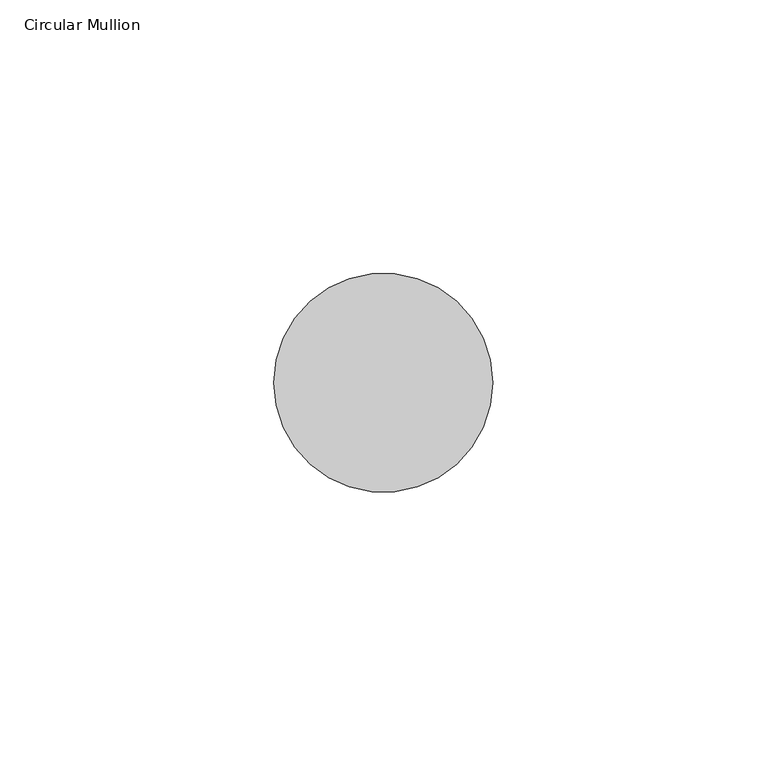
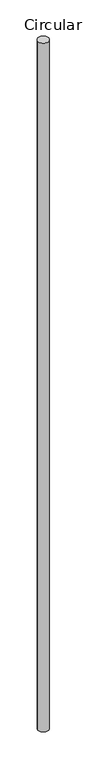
"""IFC4 building model written with IfcOpenShell, lengths in millimetres: member geometry, Circular Mullion : GRADIL 40mm."""

from ifc_helpers import new_model, si_unit, point, frame, frame_2d, origin, place, context, project, spatial, circle_curve, trimmed, segment, composite_curve, outline, extrude, source, transform, mapped, element, save


def circular_mullion_b72c217d(model_context):
    return source(origin(), model_context, "Body", "SweptSolid", [
        extrude(outline(composite_curve([segment(trimmed(circle_curve(frame_2d((-20.0, 0.0)), 20.0), [point((0.0, 0.0))], [point((-40.0, 0.0))], False, "CARTESIAN"), True, "CONTINUOUS"), segment(trimmed(circle_curve(frame_2d((-20.0, 0.0)), 20.0), [point((-40.0, 0.0))], [point((0.0, 0.0))], False, "CARTESIAN"), True, "CONTINUOUS")], self_intersect=False)), frame((0.0, 0.0, -2720.0), z_axis=(0.0, 0.0, 1.0), x_axis=(1.0, 0.0, 0.0)), (0.0, 0.0, 1.0), 2720.0),
    ])


if __name__ == "__main__":
    model = new_model("IFC4")
    model_context = context("Model", 3, world=origin())
    ifc_project = project(units=[si_unit("LENGTHUNIT", "METRE", prefix="MILLI")], contexts=[model_context])
    site = spatial("IfcSite", under=ifc_project)
    building = spatial("IfcBuilding", under=site)
    placement = place(None, origin())
    circular_mullion_shape = circular_mullion_b72c217d(model_context)
    element("IfcMember", 1, ObjectType="Circular Mullion : GRADIL 40mm", at=placement, inside=building, context=model_context, shape_type="MappedRepresentation", body=[
        mapped(circular_mullion_shape, transform((0.0, 0.0, 0.0), x_axis=(1.0, 0.0, 0.0), y_axis=(0.0, 1.0, 0.0), z_axis=(0.0, 0.0, 1.0))),
    ])
    save(model, "model.ifc")
